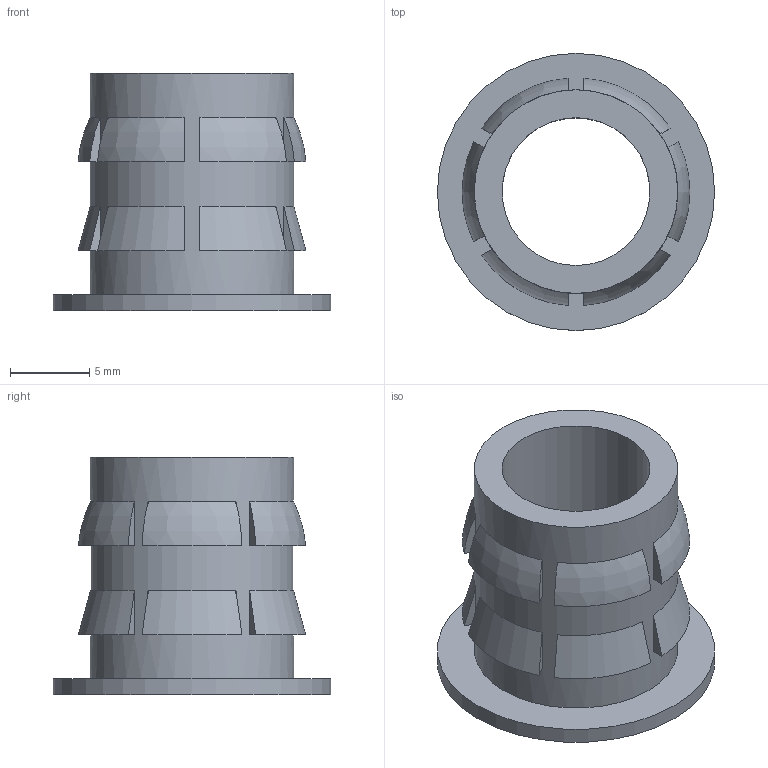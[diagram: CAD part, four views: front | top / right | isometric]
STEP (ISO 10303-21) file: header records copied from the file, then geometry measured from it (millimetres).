
FILE_DESCRIPTION (( 'STEP AP214' ), '1' );
FILE_NAME ('flanged insert 7(16)-20.STEP', '2017-08-09T09:05:45', ( '微软用户' ), ( '微软中国' ), 'SwSTEP 2.0', 'SolidWorks 2015', '' );
FILE_SCHEMA (( 'AUTOMOTIVE_DESIGN' ));
Length unit declared in the file: millimetre
Products named in the file (1): flanged insert 7(16)-20
Bounding box: 17.53 x 17.53 x 15 mm (x, y, z)
Volume: 1085 mm3; surface area: 1493.1 mm2
Topology: 1 solids, 1 shells, 55 faces, 126 edges, 84 vertices
Faces by surface type: plane 39, torus 12, cylinder 3, cone 1
Full cylindrical faces by diameter (mm): 9.347 x1, 12.871 x1, 17.526 x1
Entity records: 1594 total; most frequent: CARTESIAN_POINT 366, DIRECTION 246, ORIENTED_EDGE 230, EDGE_CURVE 115, AXIS2_PLACEMENT_3D 99, VERTEX_POINT 79, EDGE_LOOP 74, FACE_OUTER_BOUND 58
